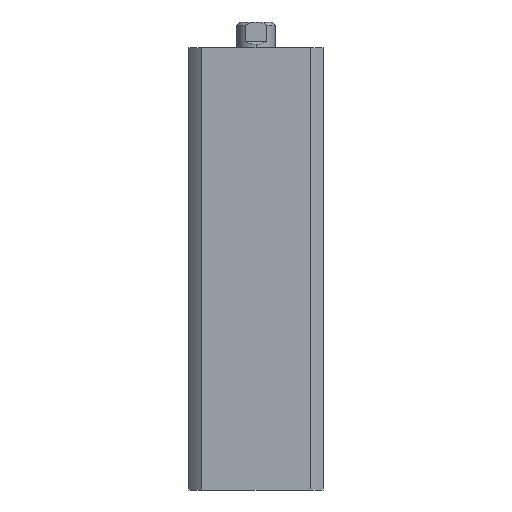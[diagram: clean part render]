
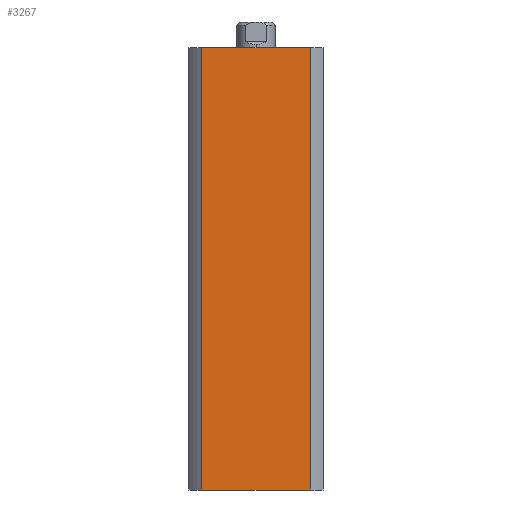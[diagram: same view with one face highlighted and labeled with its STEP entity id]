
A CAD part, left-side view. The second image highlights one B-rep face of the part: STEP entity #3267.
In plain terms, the highlighted planar face has unit normal (-1, 0, 0).
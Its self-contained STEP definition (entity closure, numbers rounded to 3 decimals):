
#620 = EDGE_CURVE ( 'NONE', #3519, #3426, #4546, .T. ) ;
#658 = EDGE_CURVE ( 'NONE', #811, #3433, #4586, .T. ) ;
#666 = EDGE_CURVE ( 'NONE', #3433, #3426, #4602, .T. ) ;
#667 = EDGE_CURVE ( 'NONE', #3519, #811, #4604, .T. ) ;
#811 = VERTEX_POINT ( 'NONE', #2275 ) ;
#1146 = CARTESIAN_POINT ( 'NONE',  ( -21., 21., 138. ) ) ;
#1153 = PLANE ( 'NONE',  #2596 ) ;
#1155 = DIRECTION ( 'NONE',  ( 1., 0., 0. ) ) ;
#1156 = DIRECTION ( 'NONE',  ( 0., 1., 0. ) ) ;
#1309 = CARTESIAN_POINT ( 'NONE',  ( -21., -16.971, 0. ) ) ;
#1315 = CARTESIAN_POINT ( 'NONE',  ( -21., -16.971, 138. ) ) ;
#1399 = CARTESIAN_POINT ( 'NONE',  ( -21., 16.971, 0. ) ) ;
#2275 = CARTESIAN_POINT ( 'NONE',  ( -21., 16.971, 138. ) ) ;
#2596 = AXIS2_PLACEMENT_3D ( 'NONE', #1146, #1155, #1156 ) ;
#2890 = FACE_OUTER_BOUND ( 'NONE', #3545, .T. ) ;
#3267 = ADVANCED_FACE ( 'NONE', ( #2890 ), #1153, .F. ) ;
#3426 = VERTEX_POINT ( 'NONE', #1309 ) ;
#3433 = VERTEX_POINT ( 'NONE', #1315 ) ;
#3519 = VERTEX_POINT ( 'NONE', #1399 ) ;
#3545 = EDGE_LOOP ( 'NONE', ( #4953, #4965, #4961, #4969 ) ) ;
#4203 = CARTESIAN_POINT ( 'NONE',  ( -21., 21., 0. ) ) ;
#4267 = DIRECTION ( 'NONE',  ( 0., -1., 0. ) ) ;
#4340 = DIRECTION ( 'NONE',  ( 0., -1., 0. ) ) ;
#4345 = CARTESIAN_POINT ( 'NONE',  ( -21., 21., 138. ) ) ;
#4364 = CARTESIAN_POINT ( 'NONE',  ( -21., -16.971, 138. ) ) ;
#4365 = DIRECTION ( 'NONE',  ( 0., 0., -1. ) ) ;
#4366 = CARTESIAN_POINT ( 'NONE',  ( -21., 16.971, 138. ) ) ;
#4367 = DIRECTION ( 'NONE',  ( 0., 0., 1. ) ) ;
#4546 = LINE ( 'NONE', #4203, #4548 ) ;
#4548 = VECTOR ( 'NONE', #4267, 1000. ) ;
#4586 = LINE ( 'NONE', #4345, #4591 ) ;
#4591 = VECTOR ( 'NONE', #4340, 1000. ) ;
#4602 = LINE ( 'NONE', #4364, #4605 ) ;
#4604 = LINE ( 'NONE', #4366, #4607 ) ;
#4605 = VECTOR ( 'NONE', #4365, 1000. ) ;
#4607 = VECTOR ( 'NONE', #4367, 1000. ) ;
#4953 = ORIENTED_EDGE ( 'NONE', *, *, #666, .F. ) ;
#4961 = ORIENTED_EDGE ( 'NONE', *, *, #667, .F. ) ;
#4965 = ORIENTED_EDGE ( 'NONE', *, *, #658, .F. ) ;
#4969 = ORIENTED_EDGE ( 'NONE', *, *, #620, .T. ) ;
